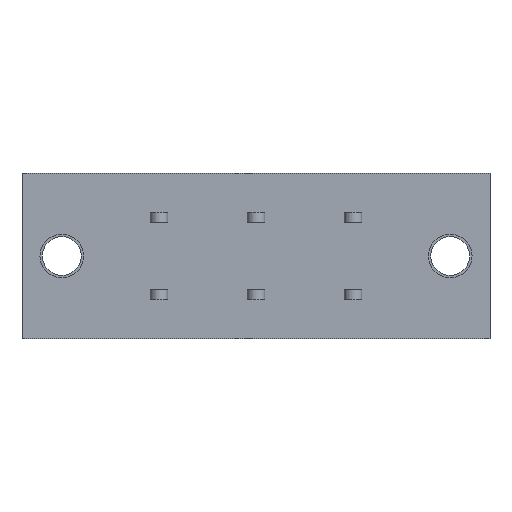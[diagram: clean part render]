
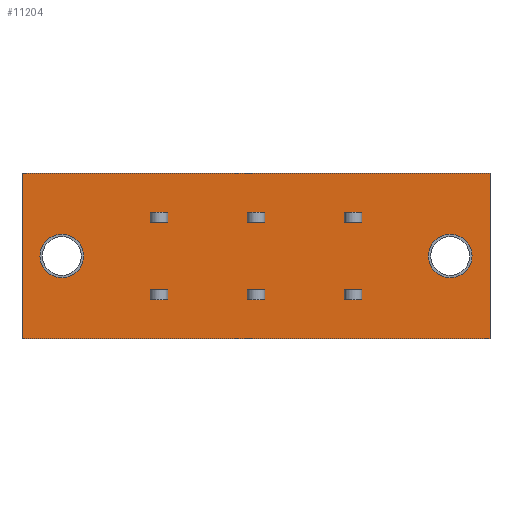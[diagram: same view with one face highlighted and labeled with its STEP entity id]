
A CAD part, front view. The second image highlights one B-rep face of the part: STEP entity #11204.
In plain terms, the highlighted planar face has unit normal (0, -1, 0).
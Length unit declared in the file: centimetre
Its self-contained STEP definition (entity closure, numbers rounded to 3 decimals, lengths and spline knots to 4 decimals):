
#560=CIRCLE('',#11879,0.225);
#561=CIRCLE('',#11880,0.225);
#695=VERTEX_POINT('',#14840);
#696=VERTEX_POINT('',#14841);
#699=VERTEX_POINT('',#14849);
#701=VERTEX_POINT('',#14855);
#702=VERTEX_POINT('',#14856);
#705=VERTEX_POINT('',#14864);
#734=VERTEX_POINT('',#14938);
#737=VERTEX_POINT('',#14952);
#748=VERTEX_POINT('',#14994);
#749=VERTEX_POINT('',#14995);
#750=VERTEX_POINT('',#14997);
#751=VERTEX_POINT('',#14999);
#752=VERTEX_POINT('',#15002);
#753=VERTEX_POINT('',#15003);
#754=VERTEX_POINT('',#15005);
#755=VERTEX_POINT('',#15007);
#756=VERTEX_POINT('',#15010);
#757=VERTEX_POINT('',#15012);
#758=VERTEX_POINT('',#15014);
#759=VERTEX_POINT('',#15015);
#760=VERTEX_POINT('',#15017);
#761=VERTEX_POINT('',#15019);
#762=VERTEX_POINT('',#15022);
#763=VERTEX_POINT('',#15023);
#764=VERTEX_POINT('',#15025);
#765=VERTEX_POINT('',#15027);
#766=VERTEX_POINT('',#15030);
#767=VERTEX_POINT('',#15031);
#768=VERTEX_POINT('',#15033);
#769=VERTEX_POINT('',#15035);
#1857=VECTOR('',#12553,1.);
#1861=VECTOR('',#12558,1.);
#1863=VECTOR('',#12563,1.);
#1867=VECTOR('',#12568,1.);
#1895=VECTOR('',#12624,1.);
#1899=VECTOR('',#12637,1.);
#1900=VECTOR('',#12639,1.);
#1911=VECTOR('',#12655,1.);
#1917=VECTOR('',#12675,1.);
#1918=VECTOR('',#12676,1.);
#1919=VECTOR('',#12677,1.);
#1920=VECTOR('',#12678,1.);
#1921=VECTOR('',#12679,1.);
#1922=VECTOR('',#12680,1.);
#1923=VECTOR('',#12681,1.);
#1924=VECTOR('',#12682,1.);
#1925=VECTOR('',#12687,1.);
#1926=VECTOR('',#12688,1.);
#1927=VECTOR('',#12689,1.);
#1928=VECTOR('',#12690,1.);
#1929=VECTOR('',#12691,1.);
#1930=VECTOR('',#12692,1.);
#1931=VECTOR('',#12693,1.);
#1932=VECTOR('',#12694,1.);
#1933=VECTOR('',#12695,1.);
#1934=VECTOR('',#12696,1.);
#1935=VECTOR('',#12697,1.);
#1936=VECTOR('',#12698,1.);
#3183=LINE('',#14839,#1857);
#3187=LINE('',#14848,#1861);
#3189=LINE('',#14854,#1863);
#3193=LINE('',#14863,#1867);
#3221=LINE('',#14937,#1895);
#3225=LINE('',#14949,#1899);
#3226=LINE('',#14951,#1900);
#3237=LINE('',#14972,#1911);
#3243=LINE('',#14993,#1917);
#3244=LINE('',#14996,#1918);
#3245=LINE('',#14998,#1919);
#3246=LINE('',#15000,#1920);
#3247=LINE('',#15001,#1921);
#3248=LINE('',#15004,#1922);
#3249=LINE('',#15006,#1923);
#3250=LINE('',#15008,#1924);
#3251=LINE('',#15013,#1925);
#3252=LINE('',#15016,#1926);
#3253=LINE('',#15018,#1927);
#3254=LINE('',#15020,#1928);
#3255=LINE('',#15021,#1929);
#3256=LINE('',#15024,#1930);
#3257=LINE('',#15026,#1931);
#3258=LINE('',#15028,#1932);
#3259=LINE('',#15029,#1933);
#3260=LINE('',#15032,#1934);
#3261=LINE('',#15034,#1935);
#3262=LINE('',#15036,#1936);
#4509=EDGE_CURVE('',#695,#696,#3183,.T.);
#4513=EDGE_CURVE('',#699,#695,#3187,.T.);
#4516=EDGE_CURVE('',#701,#702,#3189,.T.);
#4520=EDGE_CURVE('',#705,#701,#3193,.T.);
#4557=EDGE_CURVE('',#702,#734,#3221,.T.);
#4563=EDGE_CURVE('',#734,#705,#3225,.T.);
#4564=EDGE_CURVE('',#737,#699,#3226,.T.);
#4575=EDGE_CURVE('',#696,#737,#3237,.T.);
#4585=EDGE_CURVE('',#748,#749,#3243,.T.);
#4586=EDGE_CURVE('',#749,#750,#3244,.T.);
#4587=EDGE_CURVE('',#750,#751,#3245,.T.);
#4588=EDGE_CURVE('',#751,#748,#3246,.T.);
#4589=EDGE_CURVE('',#752,#753,#3247,.T.);
#4590=EDGE_CURVE('',#753,#754,#3248,.T.);
#4591=EDGE_CURVE('',#754,#755,#3249,.T.);
#4592=EDGE_CURVE('',#755,#752,#3250,.T.);
#4593=EDGE_CURVE('',#756,#756,#560,.T.);
#4594=EDGE_CURVE('',#757,#757,#561,.T.);
#4595=EDGE_CURVE('',#758,#759,#3251,.T.);
#4596=EDGE_CURVE('',#760,#759,#3252,.T.);
#4597=EDGE_CURVE('',#760,#761,#3253,.T.);
#4598=EDGE_CURVE('',#761,#758,#3254,.T.);
#4599=EDGE_CURVE('',#762,#763,#3255,.T.);
#4600=EDGE_CURVE('',#763,#764,#3256,.T.);
#4601=EDGE_CURVE('',#764,#765,#3257,.T.);
#4602=EDGE_CURVE('',#765,#762,#3258,.T.);
#4603=EDGE_CURVE('',#766,#767,#3259,.T.);
#4604=EDGE_CURVE('',#767,#768,#3260,.T.);
#4605=EDGE_CURVE('',#768,#769,#3261,.T.);
#4606=EDGE_CURVE('',#769,#766,#3262,.T.);
#6369=ORIENTED_EDGE('',*,*,#4585,.T.);
#6370=ORIENTED_EDGE('',*,*,#4586,.T.);
#6371=ORIENTED_EDGE('',*,*,#4587,.T.);
#6372=ORIENTED_EDGE('',*,*,#4588,.T.);
#6373=ORIENTED_EDGE('',*,*,#4589,.T.);
#6374=ORIENTED_EDGE('',*,*,#4590,.T.);
#6375=ORIENTED_EDGE('',*,*,#4591,.T.);
#6376=ORIENTED_EDGE('',*,*,#4592,.T.);
#6377=ORIENTED_EDGE('',*,*,#4593,.T.);
#6378=ORIENTED_EDGE('',*,*,#4594,.T.);
#6379=ORIENTED_EDGE('',*,*,#4595,.T.);
#6380=ORIENTED_EDGE('',*,*,#4596,.F.);
#6381=ORIENTED_EDGE('',*,*,#4597,.T.);
#6382=ORIENTED_EDGE('',*,*,#4598,.T.);
#6383=ORIENTED_EDGE('',*,*,#4599,.T.);
#6384=ORIENTED_EDGE('',*,*,#4600,.T.);
#6385=ORIENTED_EDGE('',*,*,#4601,.T.);
#6386=ORIENTED_EDGE('',*,*,#4602,.T.);
#6387=ORIENTED_EDGE('',*,*,#4603,.T.);
#6388=ORIENTED_EDGE('',*,*,#4604,.T.);
#6389=ORIENTED_EDGE('',*,*,#4605,.T.);
#6390=ORIENTED_EDGE('',*,*,#4606,.T.);
#6391=ORIENTED_EDGE('',*,*,#4520,.T.);
#6392=ORIENTED_EDGE('',*,*,#4516,.T.);
#6393=ORIENTED_EDGE('',*,*,#4557,.T.);
#6394=ORIENTED_EDGE('',*,*,#4563,.T.);
#6395=ORIENTED_EDGE('',*,*,#4513,.T.);
#6396=ORIENTED_EDGE('',*,*,#4509,.T.);
#6397=ORIENTED_EDGE('',*,*,#4575,.T.);
#6398=ORIENTED_EDGE('',*,*,#4564,.T.);
#9747=EDGE_LOOP('',(#6369,#6370,#6371,#6372));
#9748=EDGE_LOOP('',(#6373,#6374,#6375,#6376));
#9749=EDGE_LOOP('',(#6377));
#9750=EDGE_LOOP('',(#6378));
#9751=EDGE_LOOP('',(#6379,#6380,#6381,#6382));
#9752=EDGE_LOOP('',(#6383,#6384,#6385,#6386));
#9753=EDGE_LOOP('',(#6387,#6388,#6389,#6390));
#9754=EDGE_LOOP('',(#6391,#6392,#6393,#6394));
#9755=EDGE_LOOP('',(#6395,#6396,#6397,#6398));
#10477=FACE_BOUND('',#9747,.T.);
#10478=FACE_BOUND('',#9748,.T.);
#10479=FACE_BOUND('',#9749,.T.);
#10480=FACE_BOUND('',#9750,.T.);
#10481=FACE_BOUND('',#9751,.T.);
#10482=FACE_BOUND('',#9752,.T.);
#10483=FACE_BOUND('',#9753,.T.);
#10484=FACE_BOUND('',#9754,.T.);
#10485=FACE_BOUND('',#9755,.T.);
#11204=ADVANCED_FACE('',(#10477,#10478,#10479,#10480,#10481,#10482,#10483,
#10484,#10485),#19428,.T.);
#11878=AXIS2_PLACEMENT_3D('',#14992,#12674,$);
#11879=AXIS2_PLACEMENT_3D('',#15009,#12683,#12684);
#11880=AXIS2_PLACEMENT_3D('',#15011,#12685,#12686);
#12553=DIRECTION('',(0.,0.,-1.));
#12558=DIRECTION('',(1.,0.,0.));
#12563=DIRECTION('',(0.,0.,1.));
#12568=DIRECTION('',(-1.,0.,0.));
#12624=DIRECTION('',(1.,0.,0.));
#12637=DIRECTION('',(0.,0.,-1.));
#12639=DIRECTION('',(0.,0.,1.));
#12655=DIRECTION('',(-1.,0.,0.));
#12674=DIRECTION('',(0.,-1.,0.));
#12675=DIRECTION('',(1.,0.,0.));
#12676=DIRECTION('',(0.,0.,-1.));
#12677=DIRECTION('',(-1.,0.,0.));
#12678=DIRECTION('',(0.,0.,1.));
#12679=DIRECTION('',(-1.,0.,0.));
#12680=DIRECTION('',(0.,0.,1.));
#12681=DIRECTION('',(1.,0.,0.));
#12682=DIRECTION('',(0.,0.,-1.));
#12683=DIRECTION('',(0.,1.,0.));
#12684=DIRECTION('',(0.,0.,0.225));
#12685=DIRECTION('',(0.,1.,0.));
#12686=DIRECTION('',(0.,0.,0.225));
#12687=DIRECTION('',(1.,0.,0.));
#12688=DIRECTION('',(0.,0.,-1.));
#12689=DIRECTION('',(-1.,0.,0.));
#12690=DIRECTION('',(0.,0.,-1.));
#12691=DIRECTION('',(-1.,0.,0.));
#12692=DIRECTION('',(0.,0.,1.));
#12693=DIRECTION('',(1.,0.,0.));
#12694=DIRECTION('',(0.,0.,-1.));
#12695=DIRECTION('',(1.,0.,0.));
#12696=DIRECTION('',(0.,0.,-1.));
#12697=DIRECTION('',(-1.,0.,0.));
#12698=DIRECTION('',(0.,0.,1.));
#14839=CARTESIAN_POINT('',(2.68,0.,-0.2));
#14840=CARTESIAN_POINT('',(2.68,0.,-0.35));
#14841=CARTESIAN_POINT('',(2.68,0.,-0.45));
#14848=CARTESIAN_POINT('',(1.295,0.,-0.35));
#14849=CARTESIAN_POINT('',(2.5,0.,-0.35));
#14854=CARTESIAN_POINT('',(2.5,0.,0.2));
#14855=CARTESIAN_POINT('',(2.5,0.,0.35));
#14856=CARTESIAN_POINT('',(2.5,0.,0.45));
#14863=CARTESIAN_POINT('',(1.295,0.,0.35));
#14864=CARTESIAN_POINT('',(2.68,0.,0.35));
#14937=CARTESIAN_POINT('',(1.295,0.,0.45));
#14938=CARTESIAN_POINT('',(2.68,0.,0.45));
#14949=CARTESIAN_POINT('',(2.68,0.,0.2));
#14951=CARTESIAN_POINT('',(2.5,0.,-0.2));
#14952=CARTESIAN_POINT('',(2.5,0.,-0.45));
#14972=CARTESIAN_POINT('',(1.295,0.,-0.45));
#14992=CARTESIAN_POINT('',(0.,0.,0.));
#14993=CARTESIAN_POINT('',(0.795,0.,-0.35));
#14994=CARTESIAN_POINT('',(1.5,0.,-0.35));
#14995=CARTESIAN_POINT('',(1.68,0.,-0.35));
#14996=CARTESIAN_POINT('',(1.68,0.,-0.2));
#14997=CARTESIAN_POINT('',(1.68,0.,-0.45));
#14998=CARTESIAN_POINT('',(0.795,0.,-0.45));
#14999=CARTESIAN_POINT('',(1.5,0.,-0.45));
#15000=CARTESIAN_POINT('',(1.5,0.,-0.2));
#15001=CARTESIAN_POINT('',(0.795,0.,0.35));
#15002=CARTESIAN_POINT('',(1.68,0.,0.35));
#15003=CARTESIAN_POINT('',(1.5,0.,0.35));
#15004=CARTESIAN_POINT('',(1.5,0.,0.2));
#15005=CARTESIAN_POINT('',(1.5,0.,0.45));
#15006=CARTESIAN_POINT('',(0.795,0.,0.45));
#15007=CARTESIAN_POINT('',(1.68,0.,0.45));
#15008=CARTESIAN_POINT('',(1.68,0.,0.2));
#15009=CARTESIAN_POINT('',(3.59,0.,0.));
#15010=CARTESIAN_POINT('',(3.59,0.,-0.225));
#15011=CARTESIAN_POINT('',(-0.41,0.,0.));
#15012=CARTESIAN_POINT('',(-0.41,0.,-0.225));
#15013=CARTESIAN_POINT('',(2.,0.,-0.85));
#15014=CARTESIAN_POINT('',(-0.82,0.,-0.85));
#15015=CARTESIAN_POINT('',(4.,0.,-0.85));
#15016=CARTESIAN_POINT('',(4.,0.,0.85));
#15017=CARTESIAN_POINT('',(4.,0.,0.85));
#15018=CARTESIAN_POINT('',(0.,0.,0.85));
#15019=CARTESIAN_POINT('',(-0.82,0.,0.85));
#15020=CARTESIAN_POINT('',(-0.82,0.,0.85));
#15021=CARTESIAN_POINT('',(0.295,0.,0.35));
#15022=CARTESIAN_POINT('',(0.68,0.,0.35));
#15023=CARTESIAN_POINT('',(0.5,0.,0.35));
#15024=CARTESIAN_POINT('',(0.5,0.,0.2));
#15025=CARTESIAN_POINT('',(0.5,0.,0.45));
#15026=CARTESIAN_POINT('',(0.295,0.,0.45));
#15027=CARTESIAN_POINT('',(0.68,0.,0.45));
#15028=CARTESIAN_POINT('',(0.68,0.,0.2));
#15029=CARTESIAN_POINT('',(0.295,0.,-0.35));
#15030=CARTESIAN_POINT('',(0.5,0.,-0.35));
#15031=CARTESIAN_POINT('',(0.68,0.,-0.35));
#15032=CARTESIAN_POINT('',(0.68,0.,-0.2));
#15033=CARTESIAN_POINT('',(0.68,0.,-0.45));
#15034=CARTESIAN_POINT('',(0.295,0.,-0.45));
#15035=CARTESIAN_POINT('',(0.5,0.,-0.45));
#15036=CARTESIAN_POINT('',(0.5,0.,-0.2));
#19428=PLANE('',#11878);
